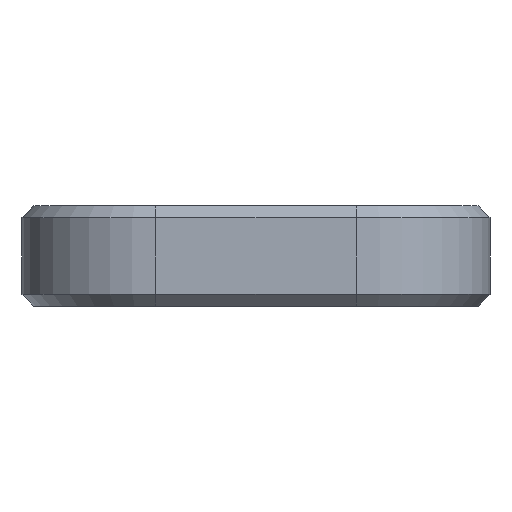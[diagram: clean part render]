
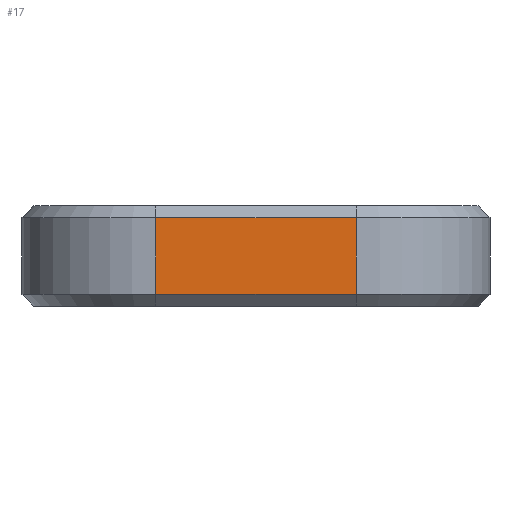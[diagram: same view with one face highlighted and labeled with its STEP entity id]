
A CAD part, front view. The second image highlights one B-rep face of the part: STEP entity #17.
In plain terms, the highlighted planar face has unit normal (0, -1, 0).
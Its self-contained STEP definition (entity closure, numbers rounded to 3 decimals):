
#17 = ADVANCED_FACE('',(#18),#32,.F.);
#18 = FACE_BOUND('',#19,.F.);
#19 = EDGE_LOOP('',(#20,#55,#83,#111));
#20 = ORIENTED_EDGE('',*,*,#21,.T.);
#21 = EDGE_CURVE('',#22,#24,#26,.T.);
#22 = VERTEX_POINT('',#23);
#23 = CARTESIAN_POINT('',(-3.,-19.,0.35));
#24 = VERTEX_POINT('',#25);
#25 = CARTESIAN_POINT('',(-3.,-19.,2.65));
#26 = SURFACE_CURVE('',#27,(#31,#43),.PCURVE_S1.);
#27 = LINE('',#28,#29);
#28 = CARTESIAN_POINT('',(-3.,-19.,0.));
#29 = VECTOR('',#30,1.);
#30 = DIRECTION('',(0.,0.,1.));
#31 = PCURVE('',#32,#37);
#32 = PLANE('',#33);
#33 = AXIS2_PLACEMENT_3D('',#34,#35,#36);
#34 = CARTESIAN_POINT('',(-7.,-19.,0.));
#35 = DIRECTION('',(0.,1.,0.));
#36 = DIRECTION('',(1.,0.,0.));
#37 = DEFINITIONAL_REPRESENTATION('',(#38),#42);
#38 = LINE('',#39,#40);
#39 = CARTESIAN_POINT('',(4.,0.));
#40 = VECTOR('',#41,1.);
#41 = DIRECTION('',(0.,-1.));
#42 = ( GEOMETRIC_REPRESENTATION_CONTEXT(2) 
PARAMETRIC_REPRESENTATION_CONTEXT() REPRESENTATION_CONTEXT('2D SPACE',''
  ) );
#43 = PCURVE('',#44,#49);
#44 = CYLINDRICAL_SURFACE('',#45,4.);
#45 = AXIS2_PLACEMENT_3D('',#46,#47,#48);
#46 = CARTESIAN_POINT('',(-3.,-15.,0.));
#47 = DIRECTION('',(0.,0.,1.));
#48 = DIRECTION('',(0.,-1.,0.));
#49 = DEFINITIONAL_REPRESENTATION('',(#50),#54);
#50 = LINE('',#51,#52);
#51 = CARTESIAN_POINT('',(-0.,0.));
#52 = VECTOR('',#53,1.);
#53 = DIRECTION('',(-0.,1.));
#54 = ( GEOMETRIC_REPRESENTATION_CONTEXT(2) 
PARAMETRIC_REPRESENTATION_CONTEXT() REPRESENTATION_CONTEXT('2D SPACE',''
  ) );
#55 = ORIENTED_EDGE('',*,*,#56,.T.);
#56 = EDGE_CURVE('',#24,#57,#59,.T.);
#57 = VERTEX_POINT('',#58);
#58 = CARTESIAN_POINT('',(3.,-19.,2.65));
#59 = SURFACE_CURVE('',#60,(#64,#71),.PCURVE_S1.);
#60 = LINE('',#61,#62);
#61 = CARTESIAN_POINT('',(-3.,-19.,2.65));
#62 = VECTOR('',#63,1.);
#63 = DIRECTION('',(1.,0.,0.));
#64 = PCURVE('',#32,#65);
#65 = DEFINITIONAL_REPRESENTATION('',(#66),#70);
#66 = LINE('',#67,#68);
#67 = CARTESIAN_POINT('',(4.,-2.65));
#68 = VECTOR('',#69,1.);
#69 = DIRECTION('',(1.,0.));
#70 = ( GEOMETRIC_REPRESENTATION_CONTEXT(2) 
PARAMETRIC_REPRESENTATION_CONTEXT() REPRESENTATION_CONTEXT('2D SPACE',''
  ) );
#71 = PCURVE('',#72,#77);
#72 = PLANE('',#73);
#73 = AXIS2_PLACEMENT_3D('',#74,#75,#76);
#74 = CARTESIAN_POINT('',(-3.,-18.825,2.825));
#75 = DIRECTION('',(0.,0.707,-0.707));
#76 = DIRECTION('',(-1.,0.,0.));
#77 = DEFINITIONAL_REPRESENTATION('',(#78),#82);
#78 = LINE('',#79,#80);
#79 = CARTESIAN_POINT('',(-0.,-0.247));
#80 = VECTOR('',#81,1.);
#81 = DIRECTION('',(-1.,0.));
#82 = ( GEOMETRIC_REPRESENTATION_CONTEXT(2) 
PARAMETRIC_REPRESENTATION_CONTEXT() REPRESENTATION_CONTEXT('2D SPACE',''
  ) );
#83 = ORIENTED_EDGE('',*,*,#84,.F.);
#84 = EDGE_CURVE('',#85,#57,#87,.T.);
#85 = VERTEX_POINT('',#86);
#86 = CARTESIAN_POINT('',(3.,-19.,0.35));
#87 = SURFACE_CURVE('',#88,(#92,#99),.PCURVE_S1.);
#88 = LINE('',#89,#90);
#89 = CARTESIAN_POINT('',(3.,-19.,0.));
#90 = VECTOR('',#91,1.);
#91 = DIRECTION('',(0.,0.,1.));
#92 = PCURVE('',#32,#93);
#93 = DEFINITIONAL_REPRESENTATION('',(#94),#98);
#94 = LINE('',#95,#96);
#95 = CARTESIAN_POINT('',(10.,0.));
#96 = VECTOR('',#97,1.);
#97 = DIRECTION('',(0.,-1.));
#98 = ( GEOMETRIC_REPRESENTATION_CONTEXT(2) 
PARAMETRIC_REPRESENTATION_CONTEXT() REPRESENTATION_CONTEXT('2D SPACE',''
  ) );
#99 = PCURVE('',#100,#105);
#100 = CYLINDRICAL_SURFACE('',#101,4.);
#101 = AXIS2_PLACEMENT_3D('',#102,#103,#104);
#102 = CARTESIAN_POINT('',(3.,-15.,0.));
#103 = DIRECTION('',(0.,0.,1.));
#104 = DIRECTION('',(0.,-1.,0.));
#105 = DEFINITIONAL_REPRESENTATION('',(#106),#110);
#106 = LINE('',#107,#108);
#107 = CARTESIAN_POINT('',(0.,0.));
#108 = VECTOR('',#109,1.);
#109 = DIRECTION('',(0.,1.));
#110 = ( GEOMETRIC_REPRESENTATION_CONTEXT(2) 
PARAMETRIC_REPRESENTATION_CONTEXT() REPRESENTATION_CONTEXT('2D SPACE',''
  ) );
#111 = ORIENTED_EDGE('',*,*,#112,.F.);
#112 = EDGE_CURVE('',#22,#85,#113,.T.);
#113 = SURFACE_CURVE('',#114,(#118,#125),.PCURVE_S1.);
#114 = LINE('',#115,#116);
#115 = CARTESIAN_POINT('',(-3.,-19.,0.35));
#116 = VECTOR('',#117,1.);
#117 = DIRECTION('',(1.,0.,0.));
#118 = PCURVE('',#32,#119);
#119 = DEFINITIONAL_REPRESENTATION('',(#120),#124);
#120 = LINE('',#121,#122);
#121 = CARTESIAN_POINT('',(4.,-0.35));
#122 = VECTOR('',#123,1.);
#123 = DIRECTION('',(1.,0.));
#124 = ( GEOMETRIC_REPRESENTATION_CONTEXT(2) 
PARAMETRIC_REPRESENTATION_CONTEXT() REPRESENTATION_CONTEXT('2D SPACE',''
  ) );
#125 = PCURVE('',#126,#131);
#126 = PLANE('',#127);
#127 = AXIS2_PLACEMENT_3D('',#128,#129,#130);
#128 = CARTESIAN_POINT('',(-3.,-18.825,0.175));
#129 = DIRECTION('',(0.,-0.707,-0.707)
  );
#130 = DIRECTION('',(-1.,0.,0.));
#131 = DEFINITIONAL_REPRESENTATION('',(#132),#136);
#132 = LINE('',#133,#134);
#133 = CARTESIAN_POINT('',(-0.,-0.247));
#134 = VECTOR('',#135,1.);
#135 = DIRECTION('',(-1.,0.));
#136 = ( GEOMETRIC_REPRESENTATION_CONTEXT(2) 
PARAMETRIC_REPRESENTATION_CONTEXT() REPRESENTATION_CONTEXT('2D SPACE',''
  ) );
